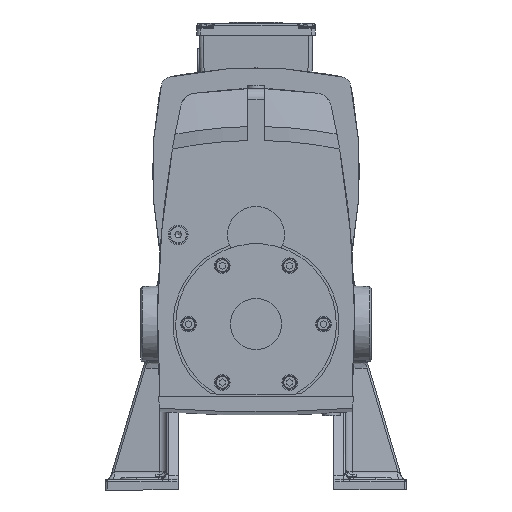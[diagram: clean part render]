
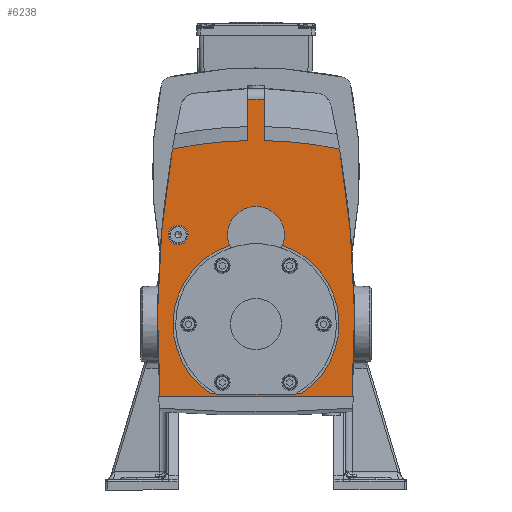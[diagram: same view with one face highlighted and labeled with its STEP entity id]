
A CAD part, front view. The second image highlights one B-rep face of the part: STEP entity #6238.
In plain terms, the highlighted planar face has unit normal (0, -1, 0).
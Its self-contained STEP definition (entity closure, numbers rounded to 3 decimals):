
#6238 = ADVANCED_FACE( 'FACE278', ( #13043, #13044, #13045 ), #13046, .T. );
#13043 = FACE_OUTER_BOUND( '', #30118, .T. );
#13044 = FACE_BOUND( '', #30119, .T. );
#13045 = FACE_BOUND( '', #30120, .T. );
#13046 = PLANE( '', #30121 );
#30118 = EDGE_LOOP( '', ( #48547, #48548, #48549, #48550, #48551, #48552, #48553, #48554 ) );
#30119 = EDGE_LOOP( '', ( #48555, #48556, #48557, #48558 ) );
#30120 = EDGE_LOOP( '', ( #48559 ) );
#30121 = AXIS2_PLACEMENT_3D( '', #48560, #48561, #48562 );
#48547 = ORIENTED_EDGE( '', *, *, #57206, .T. );
#48548 = ORIENTED_EDGE( '', *, *, #52855, .F. );
#48549 = ORIENTED_EDGE( '', *, *, #56256, .F. );
#48550 = ORIENTED_EDGE( '', *, *, #53837, .F. );
#48551 = ORIENTED_EDGE( '', *, *, #51430, .T. );
#48552 = ORIENTED_EDGE( '', *, *, #56875, .T. );
#48553 = ORIENTED_EDGE( '', *, *, #56043, .F. );
#48554 = ORIENTED_EDGE( '', *, *, #56514, .T. );
#48555 = ORIENTED_EDGE( '', *, *, #57275, .T. );
#48556 = ORIENTED_EDGE( '', *, *, #56146, .T. );
#48557 = ORIENTED_EDGE( '', *, *, #53562, .T. );
#48558 = ORIENTED_EDGE( '', *, *, #51645, .T. );
#48559 = ORIENTED_EDGE( '', *, *, #53853, .T. );
#48560 = CARTESIAN_POINT( '', ( 0., -109., 68.433 ) );
#48561 = DIRECTION( '', ( 0., -1., 0. ) );
#48562 = DIRECTION( '', ( 0., 0., -1. ) );
#51430 = EDGE_CURVE( 'EDGE638', #59022, #59020, #59023, .T. );
#51645 = EDGE_CURVE( 'EDGE614', #59402, #59403, #59404, .T. );
#52855 = EDGE_CURVE( 'EDGE678', #61410, #61412, #61413, .T. );
#53562 = EDGE_CURVE( 'EDGE618', #62511, #59402, #62512, .T. );
#53837 = EDGE_CURVE( 'EDGE680', #59022, #62930, #62931, .T. );
#53853 = EDGE_CURVE( 'EDGE610', #62953, #62953, #62954, .T. );
#56043 = EDGE_CURVE( 'EDGE631', #65979, #65981, #65982, .T. );
#56146 = EDGE_CURVE( 'EDGE624', #66108, #62511, #66109, .T. );
#56256 = EDGE_CURVE( 'EDGE679', #62930, #61410, #66242, .T. );
#56514 = EDGE_CURVE( 'EDGE629', #65979, #66545, #66547, .T. );
#56875 = EDGE_CURVE( 'EDGE635', #59020, #65981, #66964, .T. );
#57206 = EDGE_CURVE( 'EDGE637', #66545, #61412, #67333, .T. );
#57275 = EDGE_CURVE( 'EDGE627', #59403, #66108, #67405, .T. );
#59020 = VERTEX_POINT( 'VERTEX415', #70893 );
#59022 = VERTEX_POINT( 'VERTEX417', #70904 );
#59023 = CIRCLE( '', #70905, 400. );
#59402 = VERTEX_POINT( 'VERTEX405', #71554 );
#59403 = VERTEX_POINT( 'VERTEX404', #71555 );
#59404 = CIRCLE( '', #71556, 80. );
#61410 = VERTEX_POINT( 'VERTEX438', #76041 );
#61412 = VERTEX_POINT( 'VERTEX416', #76044 );
#61413 = CIRCLE( '', #76045, 1000. );
#62511 = VERTEX_POINT( 'VERTEX408', #78849 );
#62512 = CIRCLE( '', #78850, 27.5 );
#62930 = VERTEX_POINT( 'VERTEX439', #80129 );
#62931 = CIRCLE( '', #80130, 1000. );
#62953 = VERTEX_POINT( '', #80165 );
#62954 = CIRCLE( '', #80166, 9.5 );
#65979 = VERTEX_POINT( 'VERTEX412', #87698 );
#65981 = VERTEX_POINT( 'VERTEX413', #87700 );
#65982 = LINE( '', #87701, #87702 );
#66108 = VERTEX_POINT( 'VERTEX410', #87906 );
#66109 = CIRCLE( '', #87907, 80. );
#66242 = LINE( '', #88410, #88411 );
#66545 = VERTEX_POINT( 'VERTEX411', #88967 );
#66547 = LINE( '', #88978, #88979 );
#66964 = LINE( '', #90053, #90054 );
#67333 = CIRCLE( '', #90686, 400. );
#67405 = LINE( '', #90795, #90796 );
#70893 = CARTESIAN_POINT( '', ( 8., -109., 176.92 ) );
#70904 = CARTESIAN_POINT( '', ( 80.653, -109., 168.785 ) );
#70905 = AXIS2_PLACEMENT_3D( '', #92333, #92334, #92335 );
#71554 = CARTESIAN_POINT( '', ( 25.543, -109., 75.813 ) );
#71555 = CARTESIAN_POINT( '', ( 43.715, -109., -67. ) );
#71556 = AXIS2_PLACEMENT_3D( '', #92605, #92606, #92607 );
#76041 = CARTESIAN_POINT( '', ( -92.547, -109., -70. ) );
#76044 = CARTESIAN_POINT( '', ( -80.653, -109., 168.785 ) );
#76045 = AXIS2_PLACEMENT_3D( '', #94067, #94068, #94069 );
#78849 = CARTESIAN_POINT( '', ( -25.543, -109., 75.813 ) );
#78850 = AXIS2_PLACEMENT_3D( '', #94901, #94902, #94903 );
#80129 = CARTESIAN_POINT( '', ( 92.547, -109., -70. ) );
#80130 = AXIS2_PLACEMENT_3D( '', #95187, #95188, #95189 );
#80165 = CARTESIAN_POINT( '', ( -65.5, -109., 86. ) );
#80166 = AXIS2_PLACEMENT_3D( '', #95209, #95210, #95211 );
#87698 = CARTESIAN_POINT( '', ( -8., -109., 217. ) );
#87700 = CARTESIAN_POINT( '', ( 8., -109., 217. ) );
#87701 = CARTESIAN_POINT( '', ( -8., -109., 217. ) );
#87702 = VECTOR( '', #97685, 1000. );
#87906 = CARTESIAN_POINT( '', ( -43.715, -109., -67. ) );
#87907 = AXIS2_PLACEMENT_3D( '', #97789, #97790, #97791 );
#88410 = CARTESIAN_POINT( '', ( 0., -109., -70. ) );
#88411 = VECTOR( '', #97912, 1000. );
#88967 = CARTESIAN_POINT( '', ( -8., -109., 176.92 ) );
#88978 = CARTESIAN_POINT( '', ( -8., -109., 217. ) );
#88979 = VECTOR( '', #98105, 1000. );
#90053 = CARTESIAN_POINT( '', ( 8., -109., 217. ) );
#90054 = VECTOR( '', #98385, 1000. );
#90686 = AXIS2_PLACEMENT_3D( '', #98598, #98599, #98600 );
#90795 = CARTESIAN_POINT( '', ( 0., -109., -67. ) );
#90796 = VECTOR( '', #98646, 1000. );
#92333 = CARTESIAN_POINT( '', ( 0., -109., -223. ) );
#92334 = DIRECTION( '', ( 0., -1., 0. ) );
#92335 = DIRECTION( '', ( 1., 0., 0. ) );
#92605 = CARTESIAN_POINT( '', ( 0., -109., 0. ) );
#92606 = DIRECTION( '', ( 0., 1., 0. ) );
#92607 = DIRECTION( '', ( 1., 0., 0. ) );
#94067 = CARTESIAN_POINT( '', ( 905., -109., 0. ) );
#94068 = DIRECTION( '', ( 0., 1., 0. ) );
#94069 = DIRECTION( '', ( -0.998, 0., -0.07 ) );
#94901 = CARTESIAN_POINT( '', ( 0., -109., 86. ) );
#94902 = DIRECTION( '', ( 0., 1., 0. ) );
#94903 = DIRECTION( '', ( 1., 0., 0. ) );
#95187 = CARTESIAN_POINT( '', ( -905., -109., 0. ) );
#95188 = DIRECTION( '', ( 0., 1., 0. ) );
#95189 = DIRECTION( '', ( 0.978, 0., 0.21 ) );
#95209 = CARTESIAN_POINT( '', ( -75., -109., 86. ) );
#95210 = DIRECTION( '', ( 0., 1., 0. ) );
#95211 = DIRECTION( '', ( 1., 0., 0. ) );
#97685 = DIRECTION( '', ( 1., 0., 0. ) );
#97789 = CARTESIAN_POINT( '', ( 0., -109., 0. ) );
#97790 = DIRECTION( '', ( 0., 1., 0. ) );
#97791 = DIRECTION( '', ( 1., 0., 0. ) );
#97912 = DIRECTION( '', ( -1., 0., 0. ) );
#98105 = DIRECTION( '', ( 0., 0., -1. ) );
#98385 = DIRECTION( '', ( 0., 0., 1. ) );
#98598 = CARTESIAN_POINT( '', ( 0., -109., -223. ) );
#98599 = DIRECTION( '', ( 0., -1., 0. ) );
#98600 = DIRECTION( '', ( 1., 0., 0. ) );
#98646 = DIRECTION( '', ( -1., 0., 0. ) );
